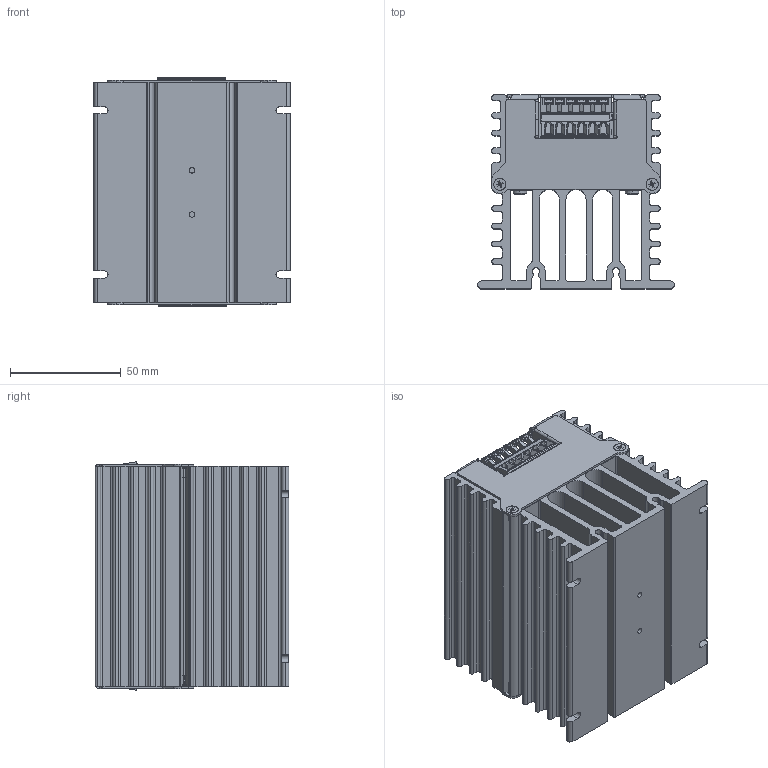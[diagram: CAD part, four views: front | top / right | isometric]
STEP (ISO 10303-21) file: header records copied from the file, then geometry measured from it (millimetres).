
FILE_DESCRIPTION (( 'STEP AP214' ), '1' );
FILE_NAME ('TEQ 200WIR.STEP', '2018-10-16T09:40:20', ( 'user' ), ( '' ), 'SwSTEP 2.0', 'SolidWorks 2016', '' );
FILE_SCHEMA (( 'AUTOMOTIVE_DESIGN' ));
Length unit declared in the file: millimetre
Products named in the file (1): TEQ 200WIR
Bounding box: 88.9 x 87.6 x 103.2 mm (x, y, z)
Volume: 308276.3 mm3; surface area: 175060.9 mm2
Topology: 25 solids, 25 shells, 1960 faces, 5231 edges, 3364 vertices
Faces by surface type: plane 1134, cylinder 600, cone 184, torus 26, sphere 16
Entity records: 83611 total; most frequent: CARTESIAN_POINT 11620, DIRECTION 10687, ORIENTED_EDGE 10414, EDGE_CURVE 5207, AXIS2_PLACEMENT_3D 3743, VERTEX_POINT 3364, LINE 3201, VECTOR 3201
